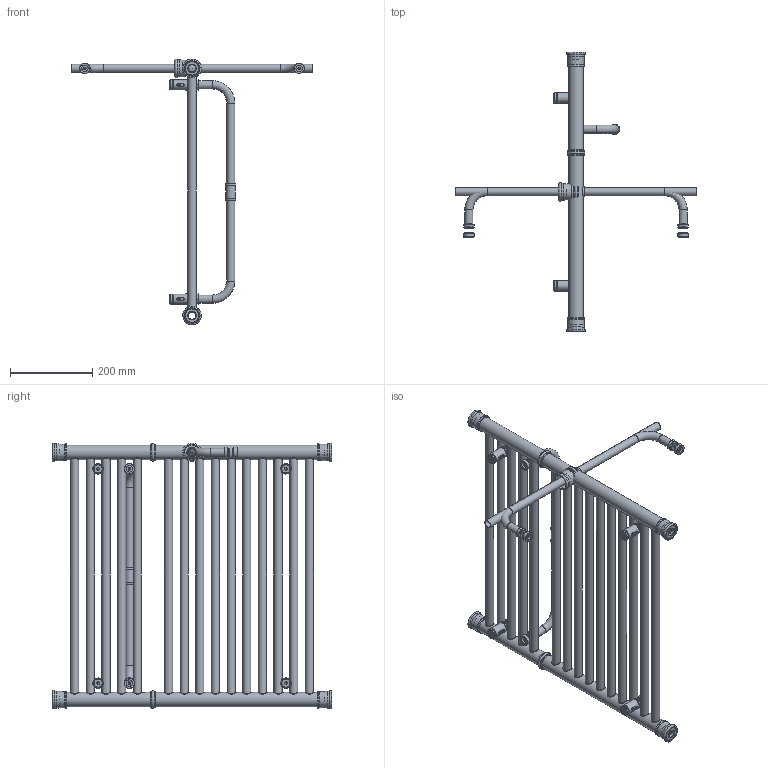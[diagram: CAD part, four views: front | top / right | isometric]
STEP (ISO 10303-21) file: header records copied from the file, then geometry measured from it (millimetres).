
FILE_DESCRIPTION( ( 'Unknown' ), '1' );
FILE_NAME( 'D:/Alplast sp. j/Witryna zespoBu - Projekty/Archiwum/Grzejniki Archiwum/Projekty/DESIGN PROGRAM/RETRO/Retro A2-600.stp', 'Unknown', ( 'Unknown' ), ( 'Unknown' ), 'PSStep 10.1', 'Unknown', ' ' );
FILE_SCHEMA( ( 'AUTOMOTIVE_DESIGN { 1 0 10303 214 1 1 1 1 }' ) );
Length unit declared in the file: millimetre
Products named in the file (45): katurek z wkrêtem do mocowania do  sciany; mocowanie do œciany; Assem1; suszarka Retro 600; Katurek fi 25 v4 ; wkrêt do katurka fi 25 v4; tulejka do mocowania grzejnika v3; mocowanie do grzejnika v3; zaœlepka do mocowania do œciany; detal-v3. par; element do suszarki do mocowania; element do suszarki do mocowania-oa0; tulejka do suszarki ; tulejka do suszarki -oa1; element do suszarki do mocowania ty³; element do suszarki do mocowania ty³-oa2; suszarka 600; kolektor Retro A2; kolektor Retro A2-oa3; Kana³ Prosty Retro 600; Kana³ Prosty Retro 600-oa4; Kana³ Prosty Retro 600-oa5; Kana³ Prosty Retro 600-oa6; Kana³ Prosty Retro 600-oa7; Kana³ Prosty Retro 600-oa8; Kana³ Prosty Retro 600-oa9; Kana³ Prosty Retro 600-oa10; Kana³ Prosty Retro 600-oa11; Kana³ Prosty Retro 600-oa12; Kana³ Prosty Retro 600-oa13; Kana³ Prosty Retro 600-oa14; Kana³ Prosty Retro 600-oa15; Kana³ Prosty Retro 600-oa16; Kana³ Prosty Retro 600-oa17; Kana³ Prosty Retro 600-oa18; Zaslepka fi 35 z gwintem ; Zaslepka fi 35 z gwintem -oa19; Zaslepka fi 35 z gwintem -oa20; Zaslepka fi 35 z gwintem -oa21; pierœcieñ na rurê fi 36 w¹ski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
Bounding box: 584 x 678 x 644.93 mm (x, y, z)
Volume: 2145988.7 mm3; surface area: 3222782 mm2
Topology: 112 solids, 112 shells, 944 faces, 1896 edges, 1210 vertices
Faces by surface type: cylinder 378, plane 282, torus 189, cone 76, bspline 12, sphere 7
Full cylindrical faces by diameter (mm): 4.917 x24, 5.9 x6, 6 x27, 6.3 x6, 6.4 x6, 15.5 x6, 17.5 x6, 17.6 x41, 18.631 x8, 20 x41, 20.3 x3, 20.5 x60, 20.6 x6, 21.15 x6, 21.9 x18, 22.8 x3, 24.5 x6, 25 x21, 25.25 x6, 25.3 x6, 32 x8, 32.4 x4, 35 x12, 35.3 x4, 35.5 x8, 39 x8, 41.15 x16
Entity records: 16459 total; most frequent: CARTESIAN_POINT 7097, DIRECTION 1344, ORIENTED_EDGE 734, EDGE_LOOP 716, AXIS2_PLACEMENT_3D 668, FACE_OUTER_BOUND 535, EDGE_CURVE 367, VERTEX_POINT 364
